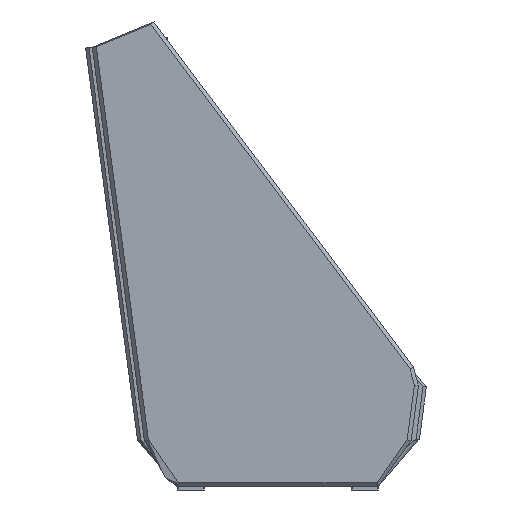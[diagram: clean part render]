
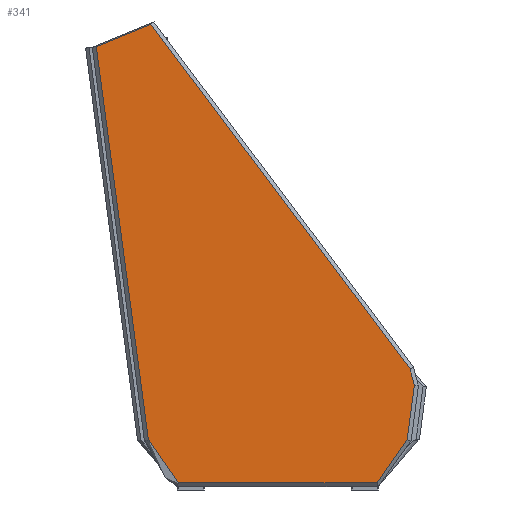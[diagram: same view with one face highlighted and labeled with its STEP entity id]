
A CAD part, left-side view. The second image highlights one B-rep face of the part: STEP entity #341.
In plain terms, the highlighted planar face has unit normal (-1, 0, 0).
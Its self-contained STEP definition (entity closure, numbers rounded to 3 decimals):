
#341=ADVANCED_FACE('',(#581),#3375,.T.);
#581=FACE_OUTER_BOUND('',#821,.T.);
#821=EDGE_LOOP('',(#1757,#1758,#1759,#1760,#1761,#1762,#1763,#1764));
#1757=ORIENTED_EDGE('',*,*,#2408,.F.);
#1758=ORIENTED_EDGE('',*,*,#2396,.F.);
#1759=ORIENTED_EDGE('',*,*,#2392,.F.);
#1760=ORIENTED_EDGE('',*,*,#2406,.F.);
#1761=ORIENTED_EDGE('',*,*,#2403,.F.);
#1762=ORIENTED_EDGE('',*,*,#2400,.F.);
#1763=ORIENTED_EDGE('',*,*,#2410,.F.);
#1764=ORIENTED_EDGE('',*,*,#2390,.T.);
#2390=EDGE_CURVE('',#3266,#3265,#2880,.T.);
#2392=EDGE_CURVE('',#3269,#3270,#2882,.T.);
#2396=EDGE_CURVE('',#3270,#3272,#2886,.T.);
#2400=EDGE_CURVE('',#3276,#3275,#2890,.T.);
#2403=EDGE_CURVE('',#3275,#3278,#2893,.T.);
#2406=EDGE_CURVE('',#3278,#3269,#2896,.T.);
#2408=EDGE_CURVE('',#3272,#3265,#2898,.T.);
#2410=EDGE_CURVE('',#3266,#3276,#2900,.T.);
#2880=(
BOUNDED_CURVE()
B_SPLINE_CURVE(1,(#8372,#8373),.UNSPECIFIED.,.F.,.F.)
B_SPLINE_CURVE_WITH_KNOTS((2,2),(2.934,597.17),
 .UNSPECIFIED.)
CURVE()
GEOMETRIC_REPRESENTATION_ITEM()
RATIONAL_B_SPLINE_CURVE((1.,1.))
REPRESENTATION_ITEM('')
);
#2882=(
BOUNDED_CURVE()
B_SPLINE_CURVE(3,(#8377,#8378,#8379,#8380,#8381),.UNSPECIFIED.,.F.,.F.)
B_SPLINE_CURVE_WITH_KNOTS((4,1,4),(0.,26.415,
52.83),.UNSPECIFIED.)
CURVE()
GEOMETRIC_REPRESENTATION_ITEM()
RATIONAL_B_SPLINE_CURVE((1.,1.,1.,1.,1.))
REPRESENTATION_ITEM('')
);
#2886=(
BOUNDED_CURVE()
B_SPLINE_CURVE(1,(#8390,#8391),.UNSPECIFIED.,.F.,.F.)
B_SPLINE_CURVE_WITH_KNOTS((2,2),(0.,163.924),
 .UNSPECIFIED.)
CURVE()
GEOMETRIC_REPRESENTATION_ITEM()
RATIONAL_B_SPLINE_CURVE((1.,1.))
REPRESENTATION_ITEM('')
);
#2890=(
BOUNDED_CURVE()
B_SPLINE_CURVE(1,(#8400,#8401),.UNSPECIFIED.,.F.,.F.)
B_SPLINE_CURVE_WITH_KNOTS((2,2),(0.,1184.771),
 .UNSPECIFIED.)
CURVE()
GEOMETRIC_REPRESENTATION_ITEM()
RATIONAL_B_SPLINE_CURVE((1.,1.))
REPRESENTATION_ITEM('')
);
#2893=(
BOUNDED_CURVE()
B_SPLINE_CURVE(3,(#8410,#8411,#8412,#8413,#8414,#8415,#8416,#8417,#8418,
#8419,#8420),.UNSPECIFIED.,.F.,.F.)
B_SPLINE_CURVE_WITH_KNOTS((4,1,1,1,1,1,1,1,4),(0.,29.067,
59.791,90.515,119.582,148.648,179.373,
210.097,239.163),.UNSPECIFIED.)
CURVE()
GEOMETRIC_REPRESENTATION_ITEM()
RATIONAL_B_SPLINE_CURVE((1.,1.,1.,1.,1.,1.,1.,1.,1.,1.,1.))
REPRESENTATION_ITEM('')
);
#2896=(
BOUNDED_CURVE()
B_SPLINE_CURVE(1,(#8426,#8427),.UNSPECIFIED.,.F.,.F.)
B_SPLINE_CURVE_WITH_KNOTS((2,2),(0.,1287.654),
 .UNSPECIFIED.)
CURVE()
GEOMETRIC_REPRESENTATION_ITEM()
RATIONAL_B_SPLINE_CURVE((1.,1.))
REPRESENTATION_ITEM('')
);
#2898=(
BOUNDED_CURVE()
B_SPLINE_CURVE(3,(#8431,#8432,#8433,#8434,#8435,#8436,#8437,#8438,#8439,
#8440),.UNSPECIFIED.,.F.,.F.)
B_SPLINE_CURVE_WITH_KNOTS((4,3,3,4),(0.,61.354,
122.934,162.662),.UNSPECIFIED.)
CURVE()
GEOMETRIC_REPRESENTATION_ITEM()
RATIONAL_B_SPLINE_CURVE((1.,1.,1.,1.,1.,1.,1.,1.,1.,1.))
REPRESENTATION_ITEM('')
);
#2900=(
BOUNDED_CURVE()
B_SPLINE_CURVE(3,(#8444,#8445,#8446,#8447,#8448,#8449,#8450,#8451,#8452,
#8453),.UNSPECIFIED.,.F.,.F.)
B_SPLINE_CURVE_WITH_KNOTS((4,3,3,4),(83.206,122.934,
184.514,245.868),.UNSPECIFIED.)
CURVE()
GEOMETRIC_REPRESENTATION_ITEM()
RATIONAL_B_SPLINE_CURVE((1.,1.,1.,1.,1.,
1.,1.,1.,1.,1.))
REPRESENTATION_ITEM('')
);
#3265=VERTEX_POINT('',#8338);
#3266=VERTEX_POINT('',#8339);
#3269=VERTEX_POINT('',#8342);
#3270=VERTEX_POINT('',#8343);
#3272=VERTEX_POINT('',#8345);
#3275=VERTEX_POINT('',#8348);
#3276=VERTEX_POINT('',#8349);
#3278=VERTEX_POINT('',#8351);
#3375=PLANE('',#3681);
#3681=AXIS2_PLACEMENT_3D('',#8293,#3725,$);
#3725=DIRECTION('',(-1.,0.,0.));
#8293=CARTESIAN_POINT('',(-850.,-542.626,-192.099));
#8338=CARTESIAN_POINT('',(-850.,-297.118,21.));
#8339=CARTESIAN_POINT('',(-850.,297.118,21.));
#8342=CARTESIAN_POINT('',(-850.,-395.001,361.871));
#8343=CARTESIAN_POINT('',(-850.,-408.078,312.046));
#8345=CARTESIAN_POINT('',(-850.,-386.54,149.544));
#8348=CARTESIAN_POINT('',(-850.,542.208,1324.043));
#8349=CARTESIAN_POINT('',(-850.,386.54,149.544));
#8351=CARTESIAN_POINT('',(-850.,379.287,1390.72));
#8372=CARTESIAN_POINT('',(-850.,297.118,21.));
#8373=CARTESIAN_POINT('',(-850.,-297.118,21.));
#8377=CARTESIAN_POINT('',(-850.,-395.001,361.871));
#8378=CARTESIAN_POINT('',(-850.,-400.301,354.839));
#8379=CARTESIAN_POINT('',(-850.,-408.111,338.683));
#8380=CARTESIAN_POINT('',(-850.,-409.242,320.775));
#8381=CARTESIAN_POINT('',(-850.,-408.078,312.046));
#8390=CARTESIAN_POINT('',(-850.,-408.078,312.046));
#8391=CARTESIAN_POINT('',(-850.,-386.54,149.544));
#8400=CARTESIAN_POINT('',(-850.,386.54,149.544));
#8401=CARTESIAN_POINT('',(-850.,542.208,1324.043));
#8410=CARTESIAN_POINT('',(-850.,542.208,1324.043));
#8411=CARTESIAN_POINT('',(-850.,543.484,1333.648));
#8412=CARTESIAN_POINT('',(-850.,542.919,1353.827));
#8413=CARTESIAN_POINT('',(-850.,532.241,1382.509));
#8414=CARTESIAN_POINT('',(-850.,512.661,1406.033));
#8415=CARTESIAN_POINT('',(-850.,487.056,1421.665));
#8416=CARTESIAN_POINT('',(-850.,457.838,1428.469));
#8417=CARTESIAN_POINT('',(-850.,427.384,1425.423));
#8418=CARTESIAN_POINT('',(-850.,399.661,1412.456));
#8419=CARTESIAN_POINT('',(-850.,385.111,1398.463));
#8420=CARTESIAN_POINT('',(-850.,379.287,1390.72));
#8426=CARTESIAN_POINT('',(-850.,379.287,1390.72));
#8427=CARTESIAN_POINT('',(-850.,-395.001,361.871));
#8431=CARTESIAN_POINT('',(-850.,-386.54,149.544));
#8432=CARTESIAN_POINT('',(-850.,-383.862,129.268));
#8433=CARTESIAN_POINT('',(-850.,-377.492,109.485));
#8434=CARTESIAN_POINT('',(-850.,-367.851,91.45));
#8435=CARTESIAN_POINT('',(-850.,-358.174,73.349));
#8436=CARTESIAN_POINT('',(-850.,-345.203,57.008));
#8437=CARTESIAN_POINT('',(-850.,-329.765,43.482));
#8438=CARTESIAN_POINT('',(-850.,-319.806,34.755));
#8439=CARTESIAN_POINT('',(-850.,-308.82,27.2));
#8440=CARTESIAN_POINT('',(-850.,-297.118,21.));
#8444=CARTESIAN_POINT('',(-850.,297.118,21.));
#8445=CARTESIAN_POINT('',(-850.,308.82,27.2));
#8446=CARTESIAN_POINT('',(-850.,319.806,34.755));
#8447=CARTESIAN_POINT('',(-850.,329.765,43.482));
#8448=CARTESIAN_POINT('',(-850.,345.203,57.008));
#8449=CARTESIAN_POINT('',(-850.,358.174,73.349));
#8450=CARTESIAN_POINT('',(-850.,367.851,91.45));
#8451=CARTESIAN_POINT('',(-850.,377.492,109.485));
#8452=CARTESIAN_POINT('',(-850.,383.862,129.268));
#8453=CARTESIAN_POINT('',(-850.,386.54,149.544));
